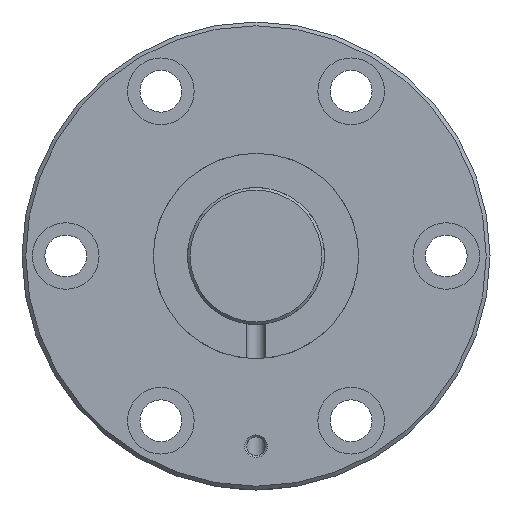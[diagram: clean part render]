
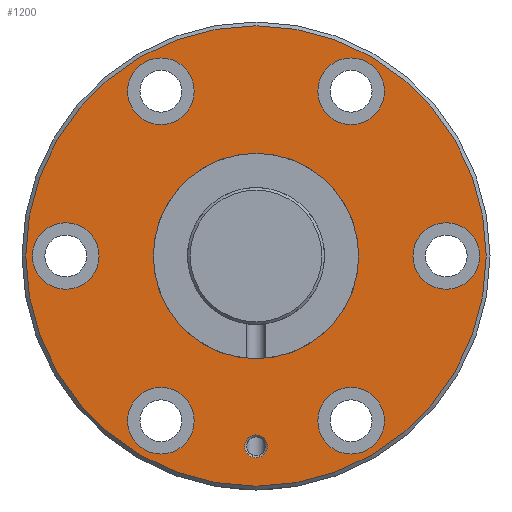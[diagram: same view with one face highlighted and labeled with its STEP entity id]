
A CAD part, left-side view. The second image highlights one B-rep face of the part: STEP entity #1200.
In plain terms, the highlighted planar face has unit normal (-1, 0, 0).
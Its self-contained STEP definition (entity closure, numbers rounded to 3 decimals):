
#218=ORIENTED_EDGE('',*,*,#478,.T.);
#219=ORIENTED_EDGE('',*,*,#502,.T.);
#220=ORIENTED_EDGE('',*,*,#503,.T.);
#221=ORIENTED_EDGE('',*,*,#504,.T.);
#222=ORIENTED_EDGE('',*,*,#505,.T.);
#223=ORIENTED_EDGE('',*,*,#506,.T.);
#224=ORIENTED_EDGE('',*,*,#507,.T.);
#225=ORIENTED_EDGE('',*,*,#508,.T.);
#226=ORIENTED_EDGE('',*,*,#501,.F.);
#478=EDGE_CURVE('',#624,#624,#732,.T.);
#501=EDGE_CURVE('',#647,#647,#735,.T.);
#502=EDGE_CURVE('',#648,#648,#736,.F.);
#503=EDGE_CURVE('',#649,#649,#737,.T.);
#504=EDGE_CURVE('',#650,#650,#738,.T.);
#505=EDGE_CURVE('',#651,#651,#739,.T.);
#506=EDGE_CURVE('',#652,#652,#740,.T.);
#507=EDGE_CURVE('',#653,#653,#741,.T.);
#508=EDGE_CURVE('',#654,#654,#742,.T.);
#624=VERTEX_POINT('',#2010);
#647=VERTEX_POINT('',#2108);
#648=VERTEX_POINT('',#2111);
#649=VERTEX_POINT('',#2113);
#650=VERTEX_POINT('',#2115);
#651=VERTEX_POINT('',#2117);
#652=VERTEX_POINT('',#2119);
#653=VERTEX_POINT('',#2121);
#654=VERTEX_POINT('',#2123);
#732=CIRCLE('',#1320,27.);
#735=CIRCLE('',#1327,60.5);
#736=CIRCLE('',#1329,8.75);
#737=CIRCLE('',#1330,3.);
#738=CIRCLE('',#1331,8.75);
#739=CIRCLE('',#1332,8.75);
#740=CIRCLE('',#1333,8.75);
#741=CIRCLE('',#1334,8.75);
#742=CIRCLE('',#1335,8.75);
#849=EDGE_LOOP('',(#218));
#850=EDGE_LOOP('',(#219));
#851=EDGE_LOOP('',(#220));
#852=EDGE_LOOP('',(#221));
#853=EDGE_LOOP('',(#222));
#854=EDGE_LOOP('',(#223));
#855=EDGE_LOOP('',(#224));
#856=EDGE_LOOP('',(#225));
#857=EDGE_LOOP('',(#226));
#1012=FACE_BOUND('',#849,.T.);
#1013=FACE_BOUND('',#850,.T.);
#1014=FACE_BOUND('',#851,.T.);
#1015=FACE_BOUND('',#852,.T.);
#1016=FACE_BOUND('',#853,.T.);
#1017=FACE_BOUND('',#854,.T.);
#1018=FACE_BOUND('',#855,.T.);
#1019=FACE_BOUND('',#856,.T.);
#1020=FACE_BOUND('',#857,.T.);
#1150=PLANE('',#1328);
#1200=ADVANCED_FACE('',(#1012,#1013,#1014,#1015,#1016,#1017,#1018,#1019,
#1020),#1150,.T.);
#1320=AXIS2_PLACEMENT_3D('',#2009,#1534,#1535);
#1327=AXIS2_PLACEMENT_3D('',#2107,#1564,#1565);
#1328=AXIS2_PLACEMENT_3D('',#2109,#1566,#1567);
#1329=AXIS2_PLACEMENT_3D('',#2110,#1568,#1569);
#1330=AXIS2_PLACEMENT_3D('',#2112,#1570,#1571);
#1331=AXIS2_PLACEMENT_3D('',#2114,#1572,#1573);
#1332=AXIS2_PLACEMENT_3D('',#2116,#1574,#1575);
#1333=AXIS2_PLACEMENT_3D('',#2118,#1576,#1577);
#1334=AXIS2_PLACEMENT_3D('',#2120,#1578,#1579);
#1335=AXIS2_PLACEMENT_3D('',#2122,#1580,#1581);
#1534=DIRECTION('',(1.,0.,0.));
#1535=DIRECTION('',(0.,0.,-1.));
#1564=DIRECTION('',(1.,0.,0.));
#1565=DIRECTION('',(0.,0.,-1.));
#1566=DIRECTION('',(-1.,0.,0.));
#1567=DIRECTION('',(0.,0.,1.));
#1568=DIRECTION('',(-1.,0.,0.));
#1569=DIRECTION('',(0.,0.,1.));
#1570=DIRECTION('',(1.,0.,0.));
#1571=DIRECTION('',(0.,1.,0.));
#1572=DIRECTION('',(1.,0.,0.));
#1573=DIRECTION('',(0.,0.,-1.));
#1574=DIRECTION('',(1.,0.,0.));
#1575=DIRECTION('',(0.,0.,-1.));
#1576=DIRECTION('',(1.,0.,0.));
#1577=DIRECTION('',(0.,0.,-1.));
#1578=DIRECTION('',(1.,0.,0.));
#1579=DIRECTION('',(0.,0.,-1.));
#1580=DIRECTION('',(1.,0.,0.));
#1581=DIRECTION('',(0.,0.,-1.));
#2009=CARTESIAN_POINT('',(0.,0.,0.));
#2010=CARTESIAN_POINT('',(0.,0.,-27.));
#2107=CARTESIAN_POINT('',(0.,0.,0.));
#2108=CARTESIAN_POINT('',(0.,0.,-60.5));
#2109=CARTESIAN_POINT('',(0.,60.5,0.));
#2110=CARTESIAN_POINT('',(0.,50.,0.));
#2111=CARTESIAN_POINT('',(0.,50.,8.75));
#2112=CARTESIAN_POINT('',(0.,0.,-50.));
#2113=CARTESIAN_POINT('',(0.,3.,-50.));
#2114=CARTESIAN_POINT('',(0.,25.,43.301));
#2115=CARTESIAN_POINT('',(0.,25.,34.551));
#2116=CARTESIAN_POINT('',(0.,-25.,-43.301));
#2117=CARTESIAN_POINT('',(0.,-25.,-52.051));
#2118=CARTESIAN_POINT('',(0.,-25.,43.301));
#2119=CARTESIAN_POINT('',(0.,-25.,34.551));
#2120=CARTESIAN_POINT('',(0.,25.,-43.301));
#2121=CARTESIAN_POINT('',(0.,25.,-52.051));
#2122=CARTESIAN_POINT('',(0.,-50.,0.));
#2123=CARTESIAN_POINT('',(0.,-50.,-8.75));
